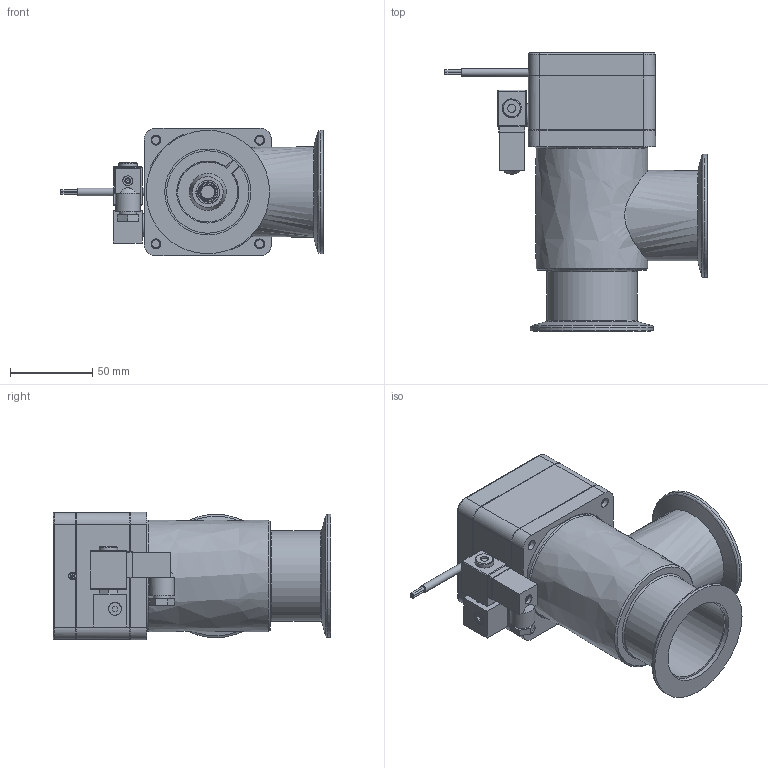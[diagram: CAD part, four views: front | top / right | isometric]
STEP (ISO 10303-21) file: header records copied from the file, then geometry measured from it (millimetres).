
FILE_DESCRIPTION((''),'2;1');
FILE_NAME('C:\TEMP\IDEAS\312817.stp','2006-09-19T17:08:15',('User'),( 'SDRC'),'I-DEAS Master Series','UNIX','Yes');
FILE_SCHEMA(('CONFIG_CONTROL_DESIGN'));
Length unit declared in the file: millimetre
Assembly tree (20 placements, depth 0):
Bounding box: 159.2 x 168.8 x 77.4 mm (x, y, z)
Volume: 162207.5 mm3; surface area: 167937.1 mm2
Topology: 23 solids, 27 shells, 779 faces, 1903 edges, 1288 vertices
Faces by surface type: bspline 779
Entity records: 24009 total; most frequent: CARTESIAN_POINT 12037, ORIENTED_EDGE 3206, EDGE_CURVE 1603, VERTEX_POINT 1031, EDGE_LOOP 793, FACE_OUTER_BOUND 669, ADVANCED_FACE 669, QUASI_UNIFORM_CURVE 580
